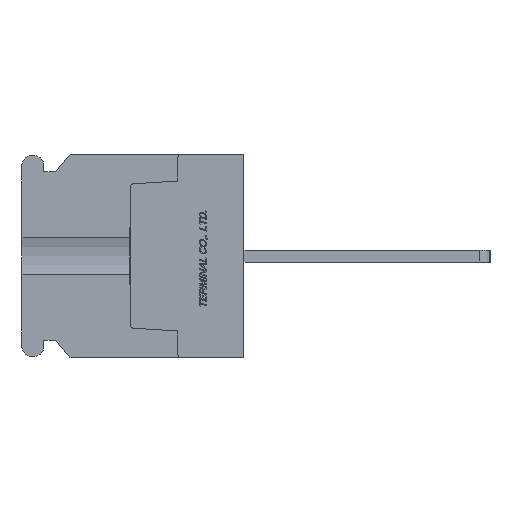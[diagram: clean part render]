
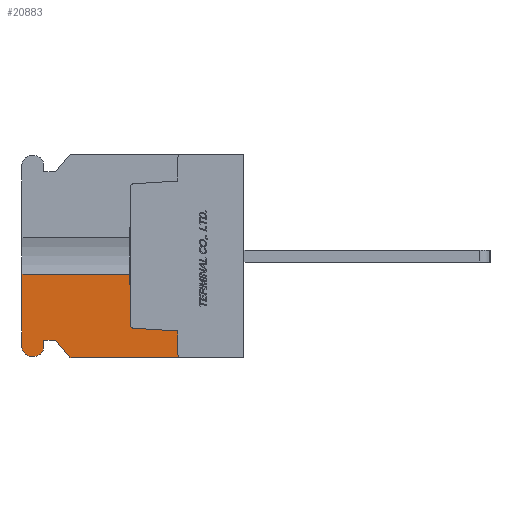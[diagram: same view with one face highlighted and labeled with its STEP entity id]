
A CAD part, left-side view. The second image highlights one B-rep face of the part: STEP entity #20883.
In plain terms, the highlighted planar face has unit normal (-1, 0, 0).
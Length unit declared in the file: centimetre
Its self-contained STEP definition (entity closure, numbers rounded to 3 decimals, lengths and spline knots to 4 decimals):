
#2586=VECTOR('',#26010,1.);
#2587=VECTOR('',#26011,1.);
#2588=VECTOR('',#26012,1.);
#2589=VECTOR('',#26015,1.);
#2590=VECTOR('',#26018,1.);
#2591=VECTOR('',#26019,1.);
#2592=VECTOR('',#26020,1.);
#2593=VECTOR('',#26021,1.);
#2594=VECTOR('',#26024,1.);
#2595=VECTOR('',#26025,1.);
#4796=LINE('',#32692,#2586);
#4797=LINE('',#32695,#2587);
#4798=LINE('',#32697,#2588);
#4799=LINE('',#32701,#2589);
#4800=LINE('',#32705,#2590);
#4801=LINE('',#32707,#2591);
#4802=LINE('',#32709,#2592);
#4803=LINE('',#32711,#2593);
#4804=LINE('',#32715,#2594);
#4805=LINE('',#32717,#2595);
#6977=VERTEX_POINT('',#32693);
#6978=VERTEX_POINT('',#32694);
#6979=VERTEX_POINT('',#32696);
#6980=VERTEX_POINT('',#32698);
#6981=VERTEX_POINT('',#32700);
#6982=VERTEX_POINT('',#32702);
#6983=VERTEX_POINT('',#32704);
#6984=VERTEX_POINT('',#32706);
#6985=VERTEX_POINT('',#32708);
#6986=VERTEX_POINT('',#32710);
#6987=VERTEX_POINT('',#32712);
#6988=VERTEX_POINT('',#32714);
#6989=VERTEX_POINT('',#32716);
#6990=VERTEX_POINT('',#32718);
#7872=CIRCLE('',#35818,0.075);
#7873=CIRCLE('',#35819,0.075);
#7874=CIRCLE('',#35820,0.03);
#7875=CIRCLE('',#35821,0.03);
#10479=EDGE_CURVE('',#6977,#6978,#4796,.T.);
#10480=EDGE_CURVE('',#6977,#6979,#4797,.T.);
#10481=EDGE_CURVE('',#6980,#6979,#4798,.T.);
#10482=EDGE_CURVE('',#6981,#6980,#7872,.T.);
#10483=EDGE_CURVE('',#6982,#6981,#4799,.T.);
#10484=EDGE_CURVE('',#6983,#6982,#7873,.T.);
#10485=EDGE_CURVE('',#6984,#6983,#4800,.T.);
#10486=EDGE_CURVE('',#6985,#6984,#4801,.T.);
#10487=EDGE_CURVE('',#6986,#6985,#4802,.T.);
#10488=EDGE_CURVE('',#6987,#6986,#4803,.T.);
#10489=EDGE_CURVE('',#6988,#6987,#7874,.T.);
#10490=EDGE_CURVE('',#6989,#6988,#4804,.T.);
#10491=EDGE_CURVE('',#6990,#6989,#4805,.T.);
#10492=EDGE_CURVE('',#6978,#6990,#7875,.T.);
#16070=ORIENTED_EDGE('',*,*,#10479,.F.);
#16071=ORIENTED_EDGE('',*,*,#10480,.T.);
#16072=ORIENTED_EDGE('',*,*,#10481,.F.);
#16073=ORIENTED_EDGE('',*,*,#10482,.F.);
#16074=ORIENTED_EDGE('',*,*,#10483,.F.);
#16075=ORIENTED_EDGE('',*,*,#10484,.F.);
#16076=ORIENTED_EDGE('',*,*,#10485,.F.);
#16077=ORIENTED_EDGE('',*,*,#10486,.F.);
#16078=ORIENTED_EDGE('',*,*,#10487,.F.);
#16079=ORIENTED_EDGE('',*,*,#10488,.F.);
#16080=ORIENTED_EDGE('',*,*,#10489,.F.);
#16081=ORIENTED_EDGE('',*,*,#10490,.F.);
#16082=ORIENTED_EDGE('',*,*,#10491,.F.);
#16083=ORIENTED_EDGE('',*,*,#10492,.F.);
#18406=EDGE_LOOP('',(#16070,#16071,#16072,#16073,#16074,#16075,#16076,#16077,
#16078,#16079,#16080,#16081,#16082,#16083));
#19694=FACE_BOUND('',#18406,.T.);
#20883=ADVANCED_FACE('',(#19694),#21731,.F.);
#21731=PLANE('',#35817);
#26009=DIRECTION('',(1.,0.,0.));
#26010=DIRECTION('',(0.,0.,-1.));
#26011=DIRECTION('',(0.,1.,0.));
#26012=DIRECTION('',(0.,0.,1.));
#26013=DIRECTION('',(1.,0.,0.));
#26014=DIRECTION('',(0.,0.,-0.075));
#26015=DIRECTION('',(0.,1.,0.));
#26016=DIRECTION('',(1.,0.,0.));
#26017=DIRECTION('',(0.,0.,-0.075));
#26018=DIRECTION('',(0.,0.,-1.));
#26019=DIRECTION('',(0.,1.,0.));
#26020=DIRECTION('',(0.,0.625,0.781));
#26021=DIRECTION('',(0.,1.,0.));
#26022=DIRECTION('',(-1.,0.,0.));
#26023=DIRECTION('',(0.,0.,0.03));
#26024=DIRECTION('',(0.,0.,-1.));
#26025=DIRECTION('',(0.,-0.998,-0.061));
#26026=DIRECTION('',(-1.,0.,0.));
#26027=DIRECTION('',(0.,0.,0.03));
#32691=CARTESIAN_POINT('',(-1.1,0.9454,0.));
#32692=CARTESIAN_POINT('',(-1.1,0.95,0.5718));
#32693=CARTESIAN_POINT('',(-1.1,0.95,-0.1521));
#32694=CARTESIAN_POINT('',(-1.1,0.95,-0.5718));
#32695=CARTESIAN_POINT('',(-1.1,1.4,-0.1521));
#32696=CARTESIAN_POINT('',(-1.1,1.85,-0.1521));
#32697=CARTESIAN_POINT('',(-1.1,1.85,-0.76));
#32698=CARTESIAN_POINT('',(-1.1,1.85,-0.76));
#32699=CARTESIAN_POINT('',(-1.1,1.775,-0.76));
#32700=CARTESIAN_POINT('',(-1.1,1.775,-0.835));
#32701=CARTESIAN_POINT('',(-1.1,1.745,-0.835));
#32702=CARTESIAN_POINT('',(-1.1,1.745,-0.835));
#32703=CARTESIAN_POINT('',(-1.1,1.745,-0.76));
#32704=CARTESIAN_POINT('',(-1.1,1.67,-0.76));
#32705=CARTESIAN_POINT('',(-1.1,1.67,-0.7));
#32706=CARTESIAN_POINT('',(-1.1,1.67,-0.7));
#32707=CARTESIAN_POINT('',(-1.1,1.57,-0.7));
#32708=CARTESIAN_POINT('',(-1.1,1.57,-0.7));
#32709=CARTESIAN_POINT('',(-1.1,1.45,-0.85));
#32710=CARTESIAN_POINT('',(-1.1,1.45,-0.85));
#32711=CARTESIAN_POINT('',(-1.1,0.,-0.85));
#32712=CARTESIAN_POINT('',(-1.1,0.52,-0.85));
#32713=CARTESIAN_POINT('',(-1.1,0.52,-0.82));
#32714=CARTESIAN_POINT('',(-1.1,0.55,-0.82));
#32715=CARTESIAN_POINT('',(-1.1,0.55,-0.6245));
#32716=CARTESIAN_POINT('',(-1.1,0.55,-0.6245));
#32717=CARTESIAN_POINT('',(-1.1,0.9218,-0.6017));
#32718=CARTESIAN_POINT('',(-1.1,0.9218,-0.6017));
#32719=CARTESIAN_POINT('',(-1.1,0.92,-0.5718));
#35817=AXIS2_PLACEMENT_3D('',#32691,#26009,$);
#35818=AXIS2_PLACEMENT_3D('',#32699,#26013,#26014);
#35819=AXIS2_PLACEMENT_3D('',#32703,#26016,#26017);
#35820=AXIS2_PLACEMENT_3D('',#32713,#26022,#26023);
#35821=AXIS2_PLACEMENT_3D('',#32719,#26026,#26027);
